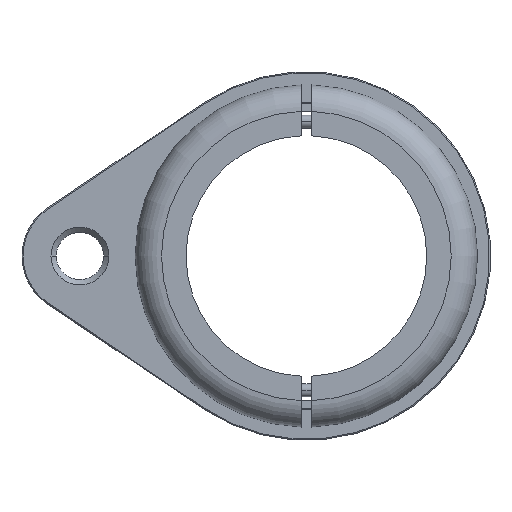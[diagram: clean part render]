
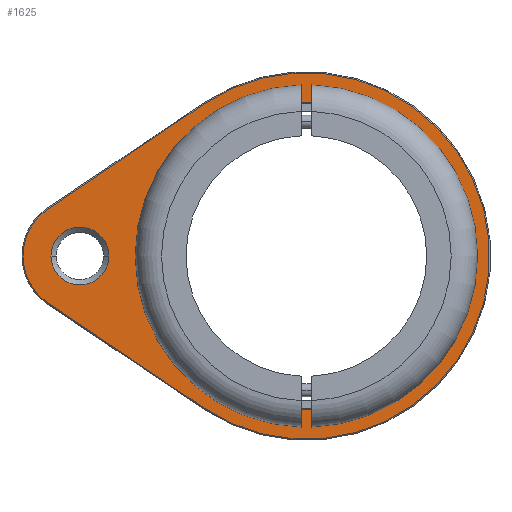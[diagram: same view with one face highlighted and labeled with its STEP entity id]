
A CAD part, left-side view. The second image highlights one B-rep face of the part: STEP entity #1625.
In plain terms, the highlighted planar face has unit normal (-1, 0, 0).
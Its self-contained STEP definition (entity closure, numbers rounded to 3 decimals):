
#1118=CARTESIAN_POINT('',(-3.,43.,0.));
#1119=DIRECTION('',(1.,0.,0.));
#1120=DIRECTION('',(0.,1.,0.));
#1121=AXIS2_PLACEMENT_3D('',#1118,#1119,#1120);
#1126=CARTESIAN_POINT('',(-3.,43.,0.));
#1127=DIRECTION('',(1.,0.,0.));
#1128=DIRECTION('',(0.,-1.,0.));
#1129=AXIS2_PLACEMENT_3D('',#1126,#1127,#1128);
#1134=CARTESIAN_POINT('',(-3.,0.,
0.));
#1135=DIRECTION('',(-1.,0.,0.));
#1136=DIRECTION('',(0.,0.558,-0.83));
#1137=AXIS2_PLACEMENT_3D('',#1134,#1135,#1136);
#1142=DIRECTION('',(0.,-0.83,-0.558));
#1143=VECTOR('',#1142,35.679);
#1144=CARTESIAN_POINT('',(-3.,49.028,
-8.961));
#1145=LINE('',#1144,#1143);
#1149=CARTESIAN_POINT('',(-3.,43.,0.));
#1150=DIRECTION('',(-1.,0.,0.));
#1151=DIRECTION('',(0.,0.558,0.83));
#1152=AXIS2_PLACEMENT_3D('',#1149,#1150,#1151);
#1157=DIRECTION('',(0.,0.83,-0.558));
#1158=VECTOR('',#1157,35.679);
#1159=CARTESIAN_POINT('',(-3.,19.423,28.875));
#1160=LINE('',#1159,#1158);
#1164=CARTESIAN_POINT('',(-3.,0.,
0.));
#1165=DIRECTION('',(1.,0.,0.));
#1166=DIRECTION('',(0.,1.,0.));
#1167=AXIS2_PLACEMENT_3D('',#1164,#1165,#1166);
#1172=CARTESIAN_POINT('',(-3.,0.,
0.));
#1173=DIRECTION('',(1.,0.,0.));
#1174=DIRECTION('',(0.,-1.,0.));
#1175=AXIS2_PLACEMENT_3D('',#1172,#1173,#1174);
#1542=CARTESIAN_POINT('',(-3.,48.5,0.));
#1543=CARTESIAN_POINT('',(-3.,37.5,0.));
#1544=VERTEX_POINT('',#1542);
#1545=VERTEX_POINT('',#1543);
#1574=CARTESIAN_POINT('',(-3.,19.423,
-28.875));
#1575=CARTESIAN_POINT('',(-3.,19.423,28.875));
#1576=VERTEX_POINT('',#1574);
#1577=VERTEX_POINT('',#1575);
#1582=CARTESIAN_POINT('',(-3.,49.028,8.961));
#1583=VERTEX_POINT('',#1582);
#1586=CARTESIAN_POINT('',(-3.,49.028,
-8.961));
#1587=VERTEX_POINT('',#1586);
#1590=CARTESIAN_POINT('',(-3.,29.2,0.));
#1591=CARTESIAN_POINT('',(-3.,-29.2,0.));
#1592=VERTEX_POINT('',#1590);
#1593=VERTEX_POINT('',#1591);
#1598=CARTESIAN_POINT('',(-3.,0.,0.));
#1599=DIRECTION('',(1.,0.,0.));
#1600=DIRECTION('',(0.,-1.,0.));
#1601=AXIS2_PLACEMENT_3D('',#1598,#1599,#1600);
#1602=PLANE('',#1601);
#1604=ORIENTED_EDGE('',*,*,#1603,.F.);
#1606=ORIENTED_EDGE('',*,*,#1605,.F.);
#1608=ORIENTED_EDGE('',*,*,#1607,.F.);
#1610=ORIENTED_EDGE('',*,*,#1609,.F.);
#1611=EDGE_LOOP('',(#1604,#1606,#1608,#1610));
#1612=FACE_OUTER_BOUND('',#1611,.F.);
#1614=ORIENTED_EDGE('',*,*,#1613,.F.);
#1616=ORIENTED_EDGE('',*,*,#1615,.F.);
#1617=EDGE_LOOP('',(#1614,#1616));
#1618=FACE_BOUND('',#1617,.F.);
#1620=ORIENTED_EDGE('',*,*,#1619,.F.);
#1622=ORIENTED_EDGE('',*,*,#1621,.F.);
#1623=EDGE_LOOP('',(#1620,#1622));
#1624=FACE_BOUND('',#1623,.F.);
#1625=ADVANCED_FACE('',(#1612,#1618,#1624),#1602,.F.);
#1122=CIRCLE('',#1121,5.5);
#1130=CIRCLE('',#1129,5.5);
#1138=CIRCLE('',#1137,34.8);
#1153=CIRCLE('',#1152,10.8);
#1168=CIRCLE('',#1167,29.2);
#1176=CIRCLE('',#1175,29.2);
#1603=EDGE_CURVE('',#1576,#1577,#1138,.T.);
#1605=EDGE_CURVE('',#1587,#1576,#1145,.T.);
#1607=EDGE_CURVE('',#1583,#1587,#1153,.T.);
#1609=EDGE_CURVE('',#1577,#1583,#1160,.T.);
#1613=EDGE_CURVE('',#1544,#1545,#1122,.T.);
#1615=EDGE_CURVE('',#1545,#1544,#1130,.T.);
#1619=EDGE_CURVE('',#1592,#1593,#1168,.T.);
#1621=EDGE_CURVE('',#1593,#1592,#1176,.T.);
